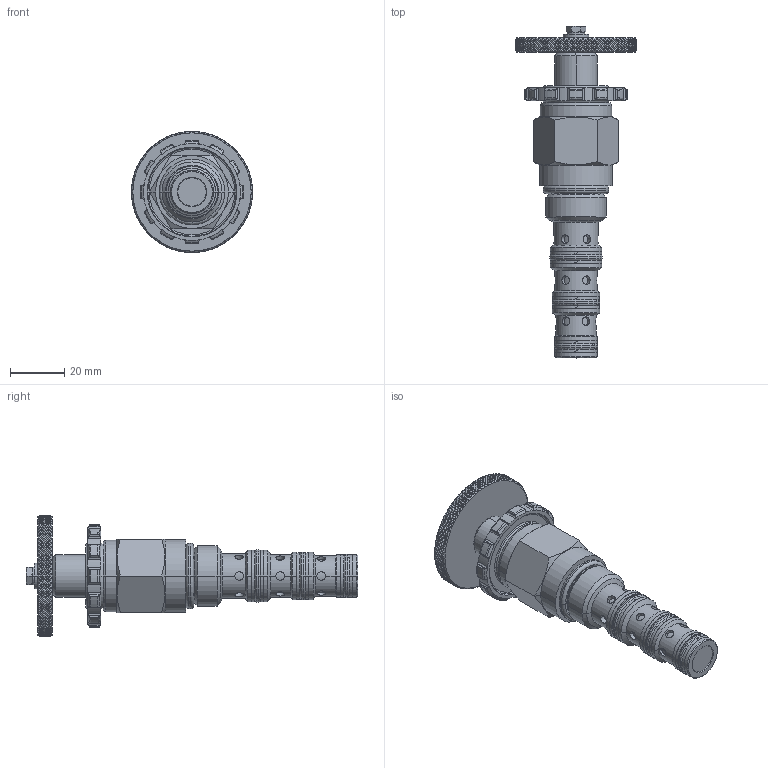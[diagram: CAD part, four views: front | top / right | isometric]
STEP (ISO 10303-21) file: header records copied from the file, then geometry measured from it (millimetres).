
FILE_DESCRIPTION((''),'2;1');
FILE_NAME('DCPS-10-A-M-OUT','2015-12-21T',('torrese'),(''),'PRO/ENGINEER BY PARAMETRIC TECHNOLOGY CORPORATION, 2015070','PRO/ENGINEER BY PARAMETRIC TECHNOLOGY CORPORATION, 2015070','');
FILE_SCHEMA(('CONFIG_CONTROL_DESIGN','GEOMETRIC_VALIDATION_PROPERTIES_MIM'));
Products named in the file (1): DCPS-10-A-M-OUT
Bounding box: 44.45 x 122 x 44.45 mm (x, y, z)
Volume: 49628.2 mm3; surface area: 14695.4 mm2
Topology: 1 solids, 1 shells, 2715 faces, 5888 edges, 3207 vertices
Faces by surface type: plane 1996, cylinder 588, cone 79, torus 52
Entity records: 126452 total; most frequent: CARTESIAN_POINT 36997, ORIENTED_EDGE 11776, DIRECTION 9222, PRESENTATION_STYLE_ASSIGNMENT 8511, STYLED_ITEM 6295, CURVE_STYLE 5888, EDGE_CURVE 5888, VERTEX_POINT 3207
